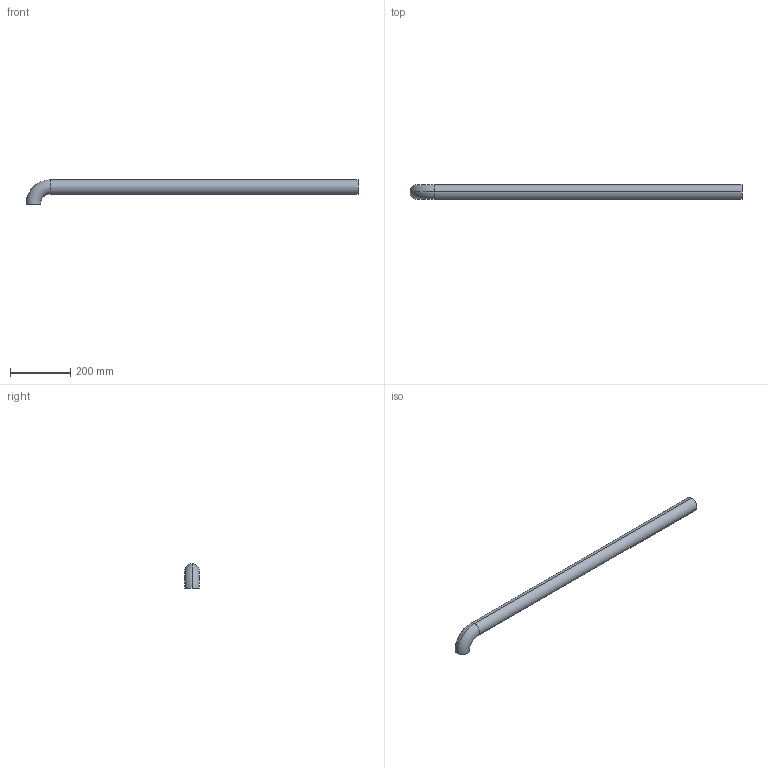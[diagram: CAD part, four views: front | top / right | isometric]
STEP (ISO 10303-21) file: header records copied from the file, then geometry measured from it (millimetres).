
FILE_DESCRIPTION (( 'STEP AP214' ), '1' );
FILE_NAME ('CCJ029-REP.351 - MAIN COURANTE PLATEFORME INTERMEDIAIRE FILE B.STEP', '2025-11-04T10:50:35', ( '' ), ( '' ), 'SwSTEP 2.0', 'SolidWorks 2021', '' );
FILE_SCHEMA (( 'AUTOMOTIVE_DESIGN' ));
Length unit declared in the file: millimetre
Products named in the file (1): CCJ029-REP.351 - MAIN COURANTE PLATEFORME INTERMEDIAIRE FILE B
Bounding box: 1105.65 x 48.3 x 81.15 mm (x, y, z)
Volume: 400732.3 mm3; surface area: 321305.3 mm2
Topology: 1 solids, 1 shells, 10 faces, 20 edges, 12 vertices
Faces by surface type: torus 4, cylinder 4, plane 2
Entity records: 306 total; most frequent: DIRECTION 58, CARTESIAN_POINT 43, ORIENTED_EDGE 40, AXIS2_PLACEMENT_3D 27, EDGE_CURVE 20, CIRCLE 16, VERTEX_POINT 12, EDGE_LOOP 12
